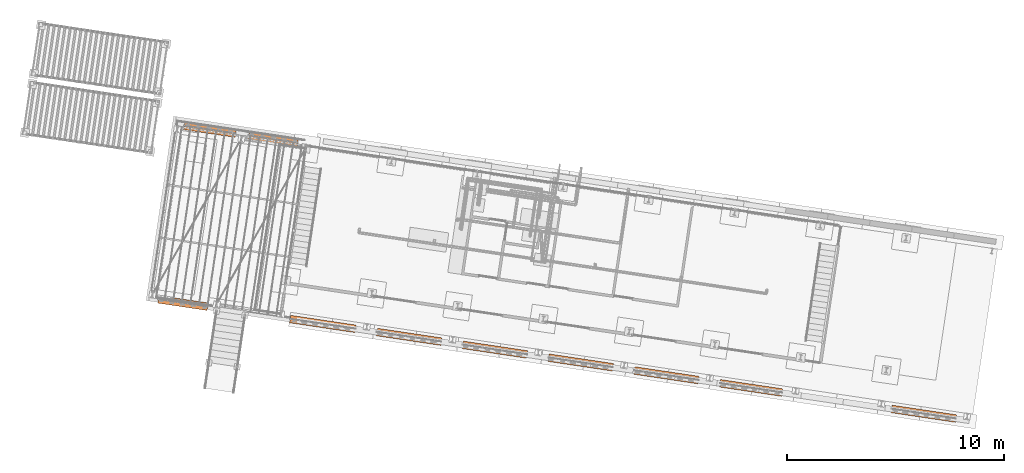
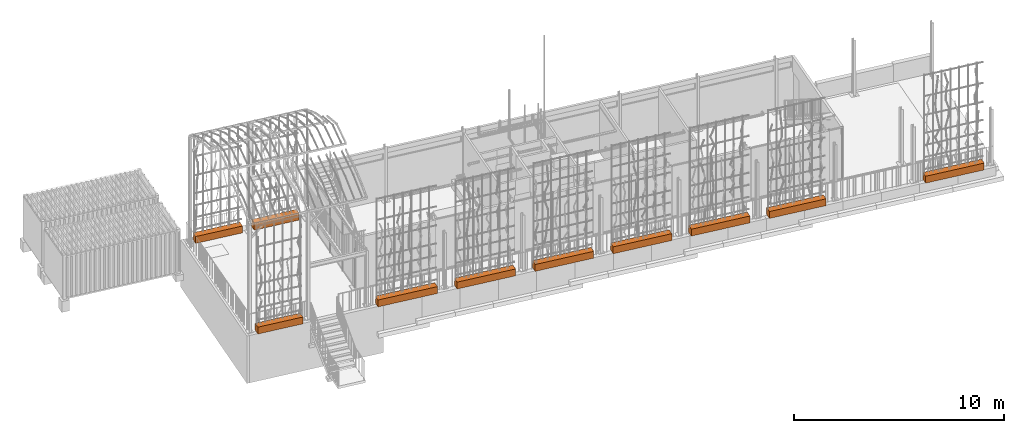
# One storey, part 142 of 142: 10 proxies, 1 element without a shape of its own.
"""IFC4 building model written with IfcOpenShell, lengths in metres."""

from ifc_helpers import new_model, si_unit, direction, frame, origin_with_axes, place, context, subcontext, project, spatial, polyline, outline, extrude, material, element, aggregate, save


model = new_model("IFC4")

# Units and contexts
model_context = context("Model", 3, precision=1e-05, world=origin_with_axes(), true_north=direction((0.0, 1.0)))
body_context = subcontext(model_context, "Body", "Model", "MODEL_VIEW")
ifc_project = project(units=[si_unit("VOLUMEUNIT", "CUBIC_METRE"), si_unit("LENGTHUNIT", "METRE"), si_unit("AREAUNIT", "SQUARE_METRE")], contexts=[model_context])

# Site, building, storey
site_placement = place(None, origin_with_axes())
site = spatial("IfcSite", under=ifc_project, at=site_placement, Name="Lares · Rua das Mercês · artigo 4771")
building_placement = place(site_placement, frame((12.0, 10.2, 13.9), z_axis=(0.0, 0.0, 1.0), x_axis=(0.989015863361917, -0.147809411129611, 0.0)))
building = spatial("IfcBuilding", under=site, at=building_placement, Name="Casa Sobreposta")
storey_placement = place(building_placement, origin_with_axes())
storey = spatial("IfcBuildingStorey", under=building, at=storey_placement, Name="00 · Habitação e estacionamento", Elevation=13.9)

# Assembly, proxies
assembly_placement = place(storey_placement, origin_with_axes())
assembly = element("IfcElementAssembly", 1, at=assembly_placement, inside=storey, Name="Fachada sul e pátio · estrutura e trepadeiras", ObjectType="LIVING_SHADE_TRELLIS", PredefinedType="USERDEFINED")
ifc_material = material(Name="Betão armado / Stahlbeton", Category="concrete")
proxy_1_placement = place(assembly_placement, frame((0.0, 0.0, -0.04), z_axis=(0.0, 0.0, 1.0), x_axis=(1.0, 0.0, 0.0)))
proxy_1 = element("IfcBuildingElementProxy", 2, at=proxy_1_placement, material=ifc_material, Name="Trepadeiras · floreira", ObjectType="Trepadeiras · floreira", PredefinedType="USERDEFINED", context=body_context, shape_type="SweptSolid", body=[
    extrude(outline(polyline([(-3.4, -1.785), (-3.4, -1.435), (-5.7, -1.435), (-5.7, -1.785), (-3.4, -1.785)])), origin_with_axes(), (0.0, 0.0, 1.0), 0.4),
])
proxy_2_placement = place(assembly_placement, frame((0.0, 0.0, -0.04), z_axis=(0.0, 0.0, 1.0), x_axis=(1.0, 0.0, 0.0)))
proxy_2 = element("IfcBuildingElementProxy", 3, at=proxy_2_placement, material=ifc_material, Name="Trepadeiras · floreira", ObjectType="Trepadeiras · floreira", PredefinedType="USERDEFINED", context=body_context, shape_type="SweptSolid", body=[
    extrude(outline(polyline([(3.5, -1.785), (3.5, -1.435), (0.45, -1.435), (0.45, -1.785), (3.5, -1.785)])), origin_with_axes(), (0.0, 0.0, 1.0), 0.4),
])
proxy_3_placement = place(assembly_placement, frame((0.0, 0.0, -0.04), z_axis=(0.0, 0.0, 1.0), x_axis=(1.0, 0.0, 0.0)))
proxy_3 = element("IfcBuildingElementProxy", 4, at=proxy_3_placement, material=ifc_material, Name="Trepadeiras · floreira", ObjectType="Trepadeiras · floreira", PredefinedType="USERDEFINED", context=body_context, shape_type="SweptSolid", body=[
    extrude(outline(polyline([(7.5, -1.785), (7.5, -1.435), (4.5, -1.435), (4.5, -1.785), (7.5, -1.785)])), origin_with_axes(), (0.0, 0.0, 1.0), 0.4),
])
proxy_4_placement = place(assembly_placement, frame((0.0, 0.0, -0.04), z_axis=(0.0, 0.0, 1.0), x_axis=(1.0, 0.0, 0.0)))
proxy_4 = element("IfcBuildingElementProxy", 5, at=proxy_4_placement, material=ifc_material, Name="Trepadeiras · floreira", ObjectType="Trepadeiras · floreira", PredefinedType="USERDEFINED", context=body_context, shape_type="SweptSolid", body=[
    extrude(outline(polyline([(11.5, -1.785), (11.5, -1.435), (8.5, -1.435), (8.5, -1.785), (11.5, -1.785)])), origin_with_axes(), (0.0, 0.0, 1.0), 0.4),
])
proxy_5_placement = place(assembly_placement, frame((0.0, 0.0, -0.04), z_axis=(0.0, 0.0, 1.0), x_axis=(1.0, 0.0, 0.0)))
proxy_5 = element("IfcBuildingElementProxy", 6, at=proxy_5_placement, material=ifc_material, Name="Trepadeiras · floreira", ObjectType="Trepadeiras · floreira", PredefinedType="USERDEFINED", context=body_context, shape_type="SweptSolid", body=[
    extrude(outline(polyline([(15.5, -1.785), (15.5, -1.435), (12.5, -1.435), (12.5, -1.785), (15.5, -1.785)])), origin_with_axes(), (0.0, 0.0, 1.0), 0.4),
])
proxy_6_placement = place(assembly_placement, frame((0.0, 0.0, -0.04), z_axis=(0.0, 0.0, 1.0), x_axis=(1.0, 0.0, 0.0)))
proxy_6 = element("IfcBuildingElementProxy", 7, at=proxy_6_placement, material=ifc_material, Name="Trepadeiras · floreira", ObjectType="Trepadeiras · floreira", PredefinedType="USERDEFINED", context=body_context, shape_type="SweptSolid", body=[
    extrude(outline(polyline([(19.5, -1.785), (19.5, -1.435), (16.5, -1.435), (16.5, -1.785), (19.5, -1.785)])), origin_with_axes(), (0.0, 0.0, 1.0), 0.4),
])
proxy_7_placement = place(assembly_placement, frame((0.0, 0.0, -0.04), z_axis=(0.0, 0.0, 1.0), x_axis=(1.0, 0.0, 0.0)))
proxy_7 = element("IfcBuildingElementProxy", 8, at=proxy_7_placement, material=ifc_material, Name="Trepadeiras · floreira", ObjectType="Trepadeiras · floreira", PredefinedType="USERDEFINED", context=body_context, shape_type="SweptSolid", body=[
    extrude(outline(polyline([(23.4, -1.785), (23.4, -1.435), (20.5, -1.435), (20.5, -1.785), (23.4, -1.785)])), origin_with_axes(), (0.0, 0.0, 1.0), 0.4),
])
proxy_8_placement = place(assembly_placement, frame((0.0, 0.0, -0.04), z_axis=(0.0, 0.0, 1.0), x_axis=(1.0, 0.0, 0.0)))
proxy_8 = element("IfcBuildingElementProxy", 9, at=proxy_8_placement, material=ifc_material, Name="Trepadeiras · floreira", ObjectType="Trepadeiras · floreira", PredefinedType="USERDEFINED", context=body_context, shape_type="SweptSolid", body=[
    extrude(outline(polyline([(31.5, -1.785), (31.5, -1.435), (28.5, -1.435), (28.5, -1.785), (31.5, -1.785)])), origin_with_axes(), (0.0, 0.0, 1.0), 0.4),
])
proxy_9_placement = place(assembly_placement, frame((0.0, 0.0, -0.04), z_axis=(0.0, 0.0, 1.0), x_axis=(1.0, 0.0, 0.0)))
proxy_9 = element("IfcBuildingElementProxy", 10, at=proxy_9_placement, material=ifc_material, Name="Trepadeiras · floreira", ObjectType="Trepadeiras · floreira", PredefinedType="USERDEFINED", context=body_context, shape_type="SweptSolid", body=[
    extrude(outline(polyline([(-3.3, 6.305), (-3.3, 6.655), (-5.7, 6.655), (-5.7, 6.305), (-3.3, 6.305)])), origin_with_axes(), (0.0, 0.0, 1.0), 0.4),
])
proxy_10_placement = place(assembly_placement, frame((0.0, 0.0, -0.04), z_axis=(0.0, 0.0, 1.0), x_axis=(1.0, 0.0, 0.0)))
proxy_10 = element("IfcBuildingElementProxy", 11, at=proxy_10_placement, material=ifc_material, Name="Trepadeiras · floreira", ObjectType="Trepadeiras · floreira", PredefinedType="USERDEFINED", context=body_context, shape_type="SweptSolid", body=[
    extrude(outline(polyline([(-0.4, 6.305), (-0.4, 6.655), (-2.7, 6.655), (-2.7, 6.305), (-0.4, 6.305)])), origin_with_axes(), (0.0, 0.0, 1.0), 0.4),
])
aggregate(assembly, [proxy_1, proxy_2, proxy_3, proxy_4, proxy_5, proxy_6, proxy_7, proxy_8, proxy_9, proxy_10])

save(model, "model.ifc")
